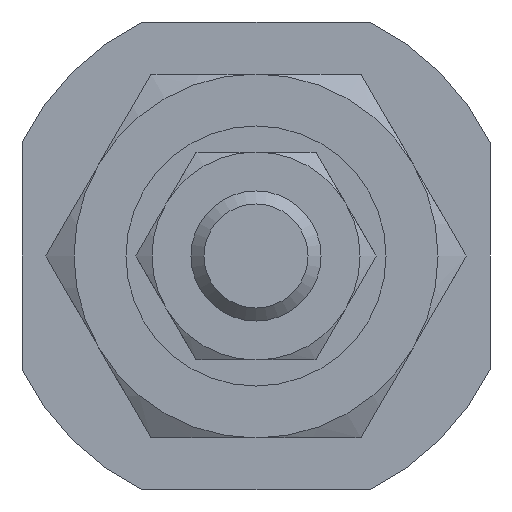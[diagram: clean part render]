
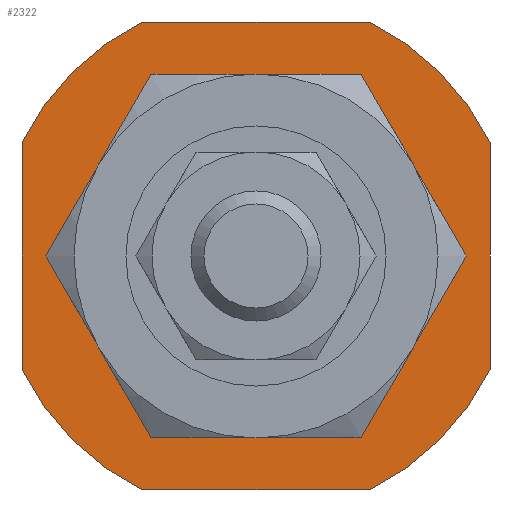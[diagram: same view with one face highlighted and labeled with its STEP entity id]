
A CAD part, left-side view. The second image highlights one B-rep face of the part: STEP entity #2322.
In plain terms, the highlighted planar face has unit normal (-1, 0, 0).
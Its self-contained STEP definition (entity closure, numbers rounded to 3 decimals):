
#1926=CARTESIAN_POINT('',(-45.899,-4.359,9.));
#1927=VERTEX_POINT('',#1926);
#1942=CARTESIAN_POINT('',(-45.899,4.359,9.0));
#1943=VERTEX_POINT('',#1942);
#1950=CARTESIAN_POINT('',(-45.899,-4.359,9.));
#1951=DIRECTION('',(0.0,1.0,0.0));
#1952=VECTOR('',#1951,8.718);
#1953=LINE('',#1950,#1952);
#1954=EDGE_CURVE('',#1927,#1943,#1953,.T.);
#2003=CARTESIAN_POINT('',(-45.899,4.359,-9.0));
#2004=VERTEX_POINT('',#2003);
#2019=CARTESIAN_POINT('',(-45.899,-4.359,-9.));
#2020=VERTEX_POINT('',#2019);
#2027=CARTESIAN_POINT('',(-45.899,4.359,-9.0));
#2028=DIRECTION('',(0.0,-1.0,0.0));
#2029=VECTOR('',#2028,8.718);
#2030=LINE('',#2027,#2029);
#2031=EDGE_CURVE('',#2004,#2020,#2030,.T.);
#2043=CARTESIAN_POINT('',(-45.899,-9.,-4.359));
#2044=VERTEX_POINT('',#2043);
#2059=CARTESIAN_POINT('',(-45.899,-9.,4.359));
#2060=VERTEX_POINT('',#2059);
#2067=CARTESIAN_POINT('',(-45.899,-9.,-4.359));
#2068=DIRECTION('',(0.0,0.0,1.0));
#2069=VECTOR('',#2068,8.718);
#2070=LINE('',#2067,#2069);
#2071=EDGE_CURVE('',#2044,#2060,#2070,.T.);
#2083=CARTESIAN_POINT('',(-45.899,9.,4.359));
#2084=VERTEX_POINT('',#2083);
#2099=CARTESIAN_POINT('',(-45.899,9.,-4.359));
#2100=VERTEX_POINT('',#2099);
#2107=CARTESIAN_POINT('',(-45.899,9.,4.359));
#2108=DIRECTION('',(0.0,0.0,-1.0));
#2109=VECTOR('',#2108,8.718);
#2110=LINE('',#2107,#2109);
#2111=EDGE_CURVE('',#2084,#2100,#2110,.T.);
#2232=CARTESIAN_POINT('',(-45.899,0.,0.0));
#2233=DIRECTION('',(-1.0,0.,0.0));
#2234=DIRECTION('',(0.,1.0,0.0));
#2235=AXIS2_PLACEMENT_3D('',#2232,#2233,#2234);
#2236=CIRCLE('',#2235,10.);
#2237=EDGE_CURVE('',#1943,#2084,#2236,.T.);
#2256=CARTESIAN_POINT('',(-45.899,0.,0.0));
#2257=DIRECTION('',(-1.0,0.,0.0));
#2258=DIRECTION('',(0.,1.0,0.0));
#2259=AXIS2_PLACEMENT_3D('',#2256,#2257,#2258);
#2260=CIRCLE('',#2259,10.);
#2261=EDGE_CURVE('',#2020,#2044,#2260,.T.);
#2272=CARTESIAN_POINT('',(-45.899,0.,0.0));
#2273=DIRECTION('',(-1.0,0.,0.0));
#2274=DIRECTION('',(0.,1.0,0.0));
#2275=AXIS2_PLACEMENT_3D('',#2272,#2273,#2274);
#2276=CIRCLE('',#2275,10.);
#2277=EDGE_CURVE('',#2100,#2004,#2276,.T.);
#2290=CARTESIAN_POINT('',(-45.899,7.5,0.0));
#2291=DIRECTION('',(-1.0,0.0,0.0));
#2292=DIRECTION('',(0.0,0.0,1.0));
#2293=AXIS2_PLACEMENT_3D('',#2290,#2291,#2292);
#2294=PLANE('',#2293);
#2295=ORIENTED_EDGE('',*,*,#1954,.T.);
#2296=ORIENTED_EDGE('',*,*,#2237,.T.);
#2297=ORIENTED_EDGE('',*,*,#2111,.T.);
#2298=ORIENTED_EDGE('',*,*,#2277,.T.);
#2299=ORIENTED_EDGE('',*,*,#2031,.T.);
#2300=ORIENTED_EDGE('',*,*,#2261,.T.);
#2301=ORIENTED_EDGE('',*,*,#2071,.T.);
#2302=CARTESIAN_POINT('',(-45.899,0.,0.0));
#2303=DIRECTION('',(-1.0,0.,0.0));
#2304=DIRECTION('',(0.,1.0,0.0));
#2305=AXIS2_PLACEMENT_3D('',#2302,#2303,#2304);
#2306=CIRCLE('',#2305,10.);
#2307=EDGE_CURVE('',#2060,#1927,#2306,.T.);
#2308=ORIENTED_EDGE('',*,*,#2307,.T.);
#2309=EDGE_LOOP('',(#2295,#2296,#2297,#2298,#2299,#2300,#2301,#2308));
#2310=FACE_OUTER_BOUND('',#2309,.T.);
#2311=CARTESIAN_POINT('',(-45.899,5.,0.0));
#2312=VERTEX_POINT('',#2311);
#2313=CARTESIAN_POINT('',(-45.899,0.,0.0));
#2314=DIRECTION('',(-1.0,0.,0.0));
#2315=DIRECTION('',(0.,1.0,0.0));
#2316=AXIS2_PLACEMENT_3D('',#2313,#2314,#2315);
#2317=CIRCLE('',#2316,5.);
#2318=EDGE_CURVE('',#2312,#2312,#2317,.T.);
#2319=ORIENTED_EDGE('',*,*,#2318,.F.);
#2320=EDGE_LOOP('',(#2319));
#2321=FACE_BOUND('',#2320,.T.);
#2322=ADVANCED_FACE('',(#2310,#2321),#2294,.T.);
